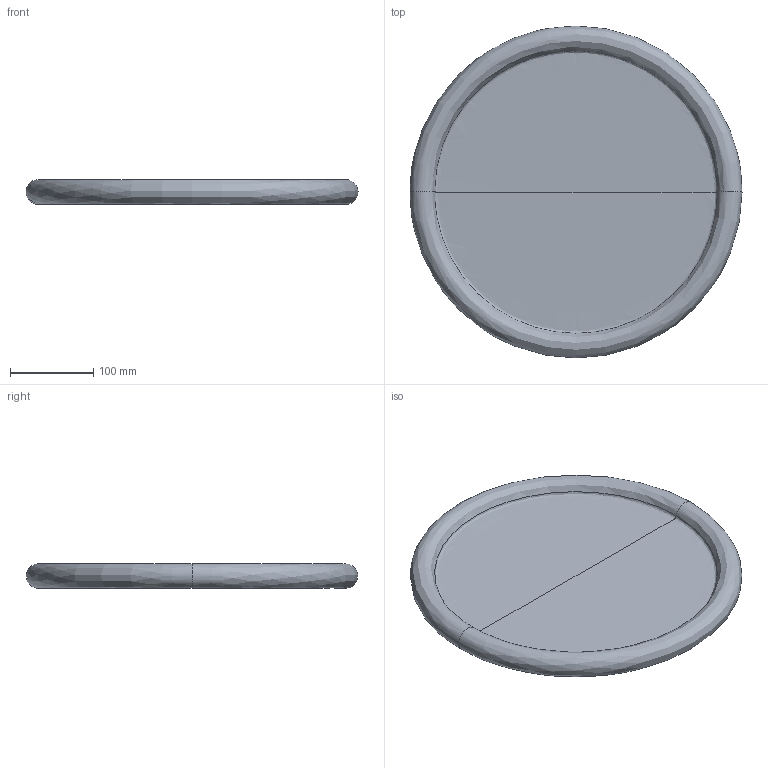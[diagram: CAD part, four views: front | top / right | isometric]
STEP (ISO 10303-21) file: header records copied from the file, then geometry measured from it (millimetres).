
FILE_DESCRIPTION(/* description */ (''),/* implementation_level */ '2;1');
FILE_NAME(/* name */ 'Enkei Tray Big',/* time_stamp */ '2024-05-13T12:14:16+02:00',/* author */ (''),/* organization */ (''),/* preprocessor_version */ 'ST-DEVELOPER v16.5',/* originating_system */ 'Rhino 7.36',/* authorisation */ '');
FILE_SCHEMA (('CONFIG_CONTROL_DESIGN'));
Length unit declared in the file: millimetre
Products named in the file (1): Document
Bounding box: 399.97 x 399.83 x 30 mm (x, y, z)
Volume: 2053155.7 mm3; surface area: 281572 mm2
Topology: 1 solids, 1 shells, 4 faces, 11 edges, 6 vertices
Faces by surface type: bspline 4
Entity records: 422 total; most frequent: CARTESIAN_POINT 248, ORIENTED_EDGE 12, PCURVE 12, DEFINITIONAL_REPRESENTATION 12, B_SPLINE_CURVE_WITH_KNOTS 12, ORGANIZATION 7, PERSON_AND_ORGANIZATION 7, SURFACE_CURVE 6
